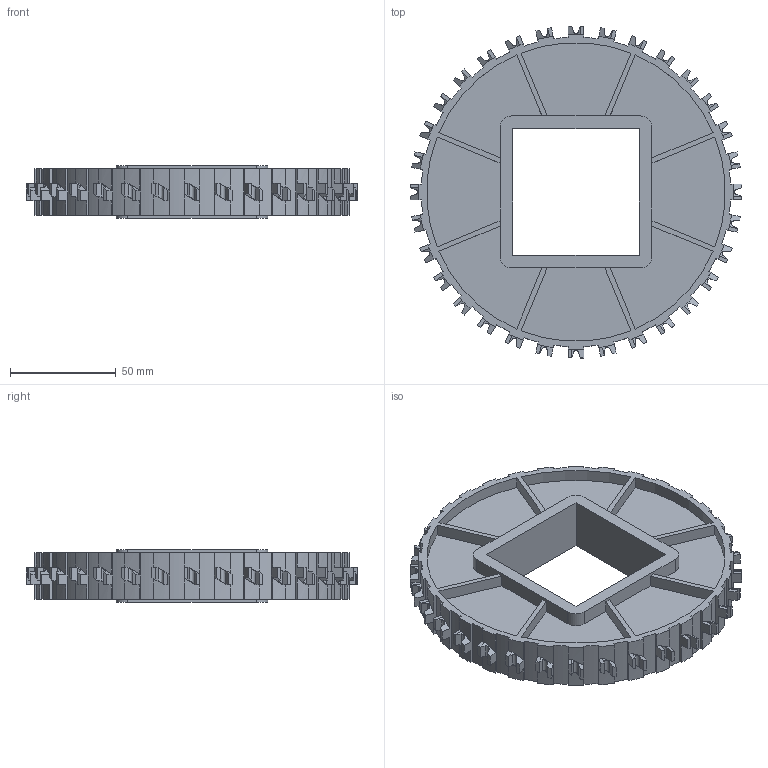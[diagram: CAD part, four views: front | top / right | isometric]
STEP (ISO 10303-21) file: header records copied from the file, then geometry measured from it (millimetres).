
FILE_DESCRIPTION((''),'2;1');
FILE_NAME('S1100_SPROCKET_61X25_60_SQ','2008-12-12T',('jmumphre'),(''),'PRO/ENGINEER BY PARAMETRIC TECHNOLOGY CORPORATION, 2008150','PRO/ENGINEER BY PARAMETRIC TECHNOLOGY CORPORATION, 2008150','');
FILE_SCHEMA(('CONFIG_CONTROL_DESIGN'));
Length unit declared in the file: inch
Products named in the file (1): S1100_SPROCKET_61X25_60_SQ
Bounding box: 157.33 x 157.33 x 24.89 mm (x, y, z)
Volume: 196676.7 mm3; surface area: 63194.1 mm2
Topology: 1 solids, 1 shells, 536 faces, 1532 edges, 1000 vertices
Faces by surface type: plane 384, cylinder 152
Entity records: 18395 total; most frequent: CARTESIAN_POINT 4411, ORIENTED_EDGE 3064, DIRECTION 2716, EDGE_CURVE 1532, VECTOR 1164, LINE 1164, VERTEX_POINT 1000, AXIS2_PLACEMENT_3D 776
